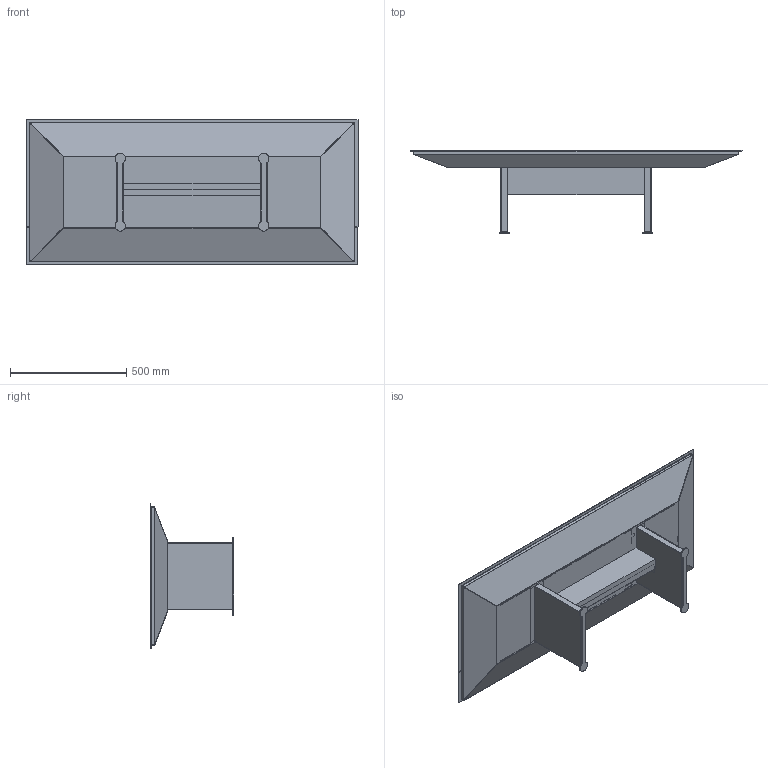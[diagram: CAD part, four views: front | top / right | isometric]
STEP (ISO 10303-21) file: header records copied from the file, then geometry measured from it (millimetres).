
FILE_DESCRIPTION (( 'STEP AP214' ), '1' );
FILE_NAME ('Eskoleia UNIT 002 - Simple.STEP', '2026-09-12T20:19:07', ( '' ), ( '' ), 'SwSTEP 2.0', 'SolidWorks 2025', '' );
FILE_SCHEMA (( 'AUTOMOTIVE_DESIGN' ));
Length unit declared in the file: millimetre
Products named in the file (1): Eskoleia UNIT 002 - Simple
Bounding box: 1430 x 358 x 623.11 mm (x, y, z)
Volume: 7667218.9 mm3; surface area: 7818977.6 mm2
Topology: 8 solids, 9 shells, 592 faces, 1698 edges, 1126 vertices
Faces by surface type: plane 477, cylinder 59, bspline 56
Entity records: 21144 total; most frequent: CARTESIAN_POINT 5989, ORIENTED_EDGE 3396, DIRECTION 2690, EDGE_CURVE 1698, VECTOR 1364, LINE 1364, VERTEX_POINT 1126, AXIS2_PLACEMENT_3D 663
